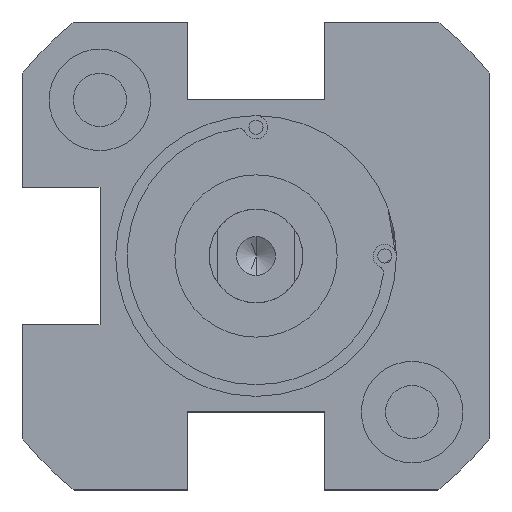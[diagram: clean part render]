
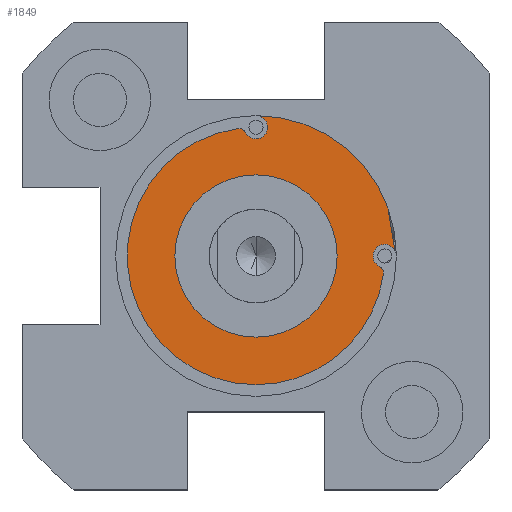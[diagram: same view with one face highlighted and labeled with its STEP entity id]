
A CAD part, front view. The second image highlights one B-rep face of the part: STEP entity #1849.
In plain terms, the highlighted planar face has unit normal (0, -1, 0) as drawn and (0, 1, 0) by its records, which use the part's own axes.
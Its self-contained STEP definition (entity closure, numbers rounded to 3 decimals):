
#7 = DIRECTION ( 'NONE',  ( 0., 0., 1. ) ) ;
#26 = CIRCLE ( 'NONE', #179, 5.2 ) ;
#53 = ORIENTED_EDGE ( 'NONE', *, *, #1013, .T. ) ;
#80 = AXIS2_PLACEMENT_3D ( 'NONE', #1652, #686, #674 ) ;
#150 = CARTESIAN_POINT ( 'NONE',  ( 0., -2., 0. ) ) ;
#178 = EDGE_CURVE ( 'NONE', #1003, #2394, #665, .T. ) ;
#179 = AXIS2_PLACEMENT_3D ( 'NONE', #969, #1355, #1545 ) ;
#257 = AXIS2_PLACEMENT_3D ( 'NONE', #486, #1034, #870 ) ;
#273 = EDGE_CURVE ( 'NONE', #882, #1968, #26, .T. ) ;
#314 = ORIENTED_EDGE ( 'NONE', *, *, #814, .T. ) ;
#318 = ORIENTED_EDGE ( 'NONE', *, *, #1264, .F. ) ;
#320 = CARTESIAN_POINT ( 'NONE',  ( 0., -2., -8.25 ) ) ;
#354 = DIRECTION ( 'NONE',  ( 0., 0., 1. ) ) ;
#358 = CIRCLE ( 'NONE', #80, 0.5 ) ;
#384 = DIRECTION ( 'NONE',  ( 0., 1., 0. ) ) ;
#446 = DIRECTION ( 'NONE',  ( 0., 0., 1. ) ) ;
#467 = CARTESIAN_POINT ( 'NONE',  ( -1.179, -2., -8.165 ) ) ;
#474 = ORIENTED_EDGE ( 'NONE', *, *, #1149, .T. ) ;
#486 = CARTESIAN_POINT ( 'NONE',  ( 0., -2., 0. ) ) ;
#487 = DIRECTION ( 'NONE',  ( 0., 0., 1. ) ) ;
#503 = CIRCLE ( 'NONE', #2262, 8.25 ) ;
#532 = DIRECTION ( 'NONE',  ( 0., 1., 0. ) ) ;
#571 = CIRCLE ( 'NONE', #1958, 0.5 ) ;
#574 = ORIENTED_EDGE ( 'NONE', *, *, #2135, .F. ) ;
#586 = ORIENTED_EDGE ( 'NONE', *, *, #2503, .T. ) ;
#587 = EDGE_CURVE ( 'NONE', #2202, #739, #503, .T. ) ;
#630 = ORIENTED_EDGE ( 'NONE', *, *, #2393, .F. ) ;
#632 = CARTESIAN_POINT ( 'NONE',  ( 0., -2., 5.2 ) ) ;
#634 = VERTEX_POINT ( 'NONE', #1720 ) ;
#650 = DIRECTION ( 'NONE',  ( 0., 1., 0. ) ) ;
#664 = DIRECTION ( 'NONE',  ( 0., 1., 0. ) ) ;
#665 = CIRCLE ( 'NONE', #2073, 0.75 ) ;
#674 = DIRECTION ( 'NONE',  ( 0., 0., 1. ) ) ;
#686 = DIRECTION ( 'NONE',  ( 0., 1., 0. ) ) ;
#687 = DIRECTION ( 'NONE',  ( 0., 1., 0. ) ) ;
#703 = ORIENTED_EDGE ( 'NONE', *, *, #587, .T. ) ;
#737 = CARTESIAN_POINT ( 'NONE',  ( 0., -2., -7.5 ) ) ;
#739 = VERTEX_POINT ( 'NONE', #1430 ) ;
#744 = CARTESIAN_POINT ( 'NONE',  ( 0., -2., 0. ) ) ;
#751 = CARTESIAN_POINT ( 'NONE',  ( -0.665, -2., -7.902 ) ) ;
#814 = EDGE_CURVE ( 'NONE', #739, #2491, #2291, .T. ) ;
#819 = DIRECTION ( 'NONE',  ( 0., 0., 1. ) ) ;
#851 = CARTESIAN_POINT ( 'NONE',  ( 0., -2., 0. ) ) ;
#870 = DIRECTION ( 'NONE',  ( 0., 0., 1. ) ) ;
#881 = CARTESIAN_POINT ( 'NONE',  ( 8.165, -2., 1.179 ) ) ;
#882 = VERTEX_POINT ( 'NONE', #1232 ) ;
#926 = DIRECTION ( 'NONE',  ( 0., 0., 1. ) ) ;
#944 = PLANE ( 'NONE',  #1279 ) ;
#956 = ORIENTED_EDGE ( 'NONE', *, *, #178, .F. ) ;
#969 = CARTESIAN_POINT ( 'NONE',  ( 0., -2., 0. ) ) ;
#974 = CARTESIAN_POINT ( 'NONE',  ( 9., -2., 0. ) ) ;
#1003 = VERTEX_POINT ( 'NONE', #737 ) ;
#1013 = EDGE_CURVE ( 'NONE', #2491, #634, #571, .T. ) ;
#1023 = CIRCLE ( 'NONE', #1713, 0.75 ) ;
#1034 = DIRECTION ( 'NONE',  ( 0., 1., 0. ) ) ;
#1076 = VERTEX_POINT ( 'NONE', #974 ) ;
#1093 = CARTESIAN_POINT ( 'NONE',  ( 0., -2., -9. ) ) ;
#1149 = EDGE_CURVE ( 'NONE', #1828, #2202, #358, .T. ) ;
#1184 = EDGE_LOOP ( 'NONE', ( #630, #1366 ) ) ;
#1189 = EDGE_LOOP ( 'NONE', ( #703, #314, #53, #574, #586, #956, #318, #474 ) ) ;
#1222 = CARTESIAN_POINT ( 'NONE',  ( 8.25, -2., 0. ) ) ;
#1232 = CARTESIAN_POINT ( 'NONE',  ( 0., -2., -5.2 ) ) ;
#1264 = EDGE_CURVE ( 'NONE', #1828, #1003, #2182, .T. ) ;
#1279 = AXIS2_PLACEMENT_3D ( 'NONE', #150, #1536, #1729 ) ;
#1345 = CARTESIAN_POINT ( 'NONE',  ( 7.67, -2., 1.108 ) ) ;
#1355 = DIRECTION ( 'NONE',  ( 0., 1., 0. ) ) ;
#1359 = CIRCLE ( 'NONE', #2009, 5.2 ) ;
#1366 = ORIENTED_EDGE ( 'NONE', *, *, #273, .F. ) ;
#1392 = DIRECTION ( 'NONE',  ( 0., 1., 0. ) ) ;
#1430 = CARTESIAN_POINT ( 'NONE',  ( 0., -2., 8.25 ) ) ;
#1510 = DIRECTION ( 'NONE',  ( 0., 0., 1. ) ) ;
#1536 = DIRECTION ( 'NONE',  ( 0., 1., 0. ) ) ;
#1545 = DIRECTION ( 'NONE',  ( 0., 0., 1. ) ) ;
#1579 = CIRCLE ( 'NONE', #2143, 9. ) ;
#1595 = AXIS2_PLACEMENT_3D ( 'NONE', #1814, #650, #446 ) ;
#1652 = CARTESIAN_POINT ( 'NONE',  ( -1.108, -2., -7.67 ) ) ;
#1713 = AXIS2_PLACEMENT_3D ( 'NONE', #1222, #1392, #819 ) ;
#1720 = CARTESIAN_POINT ( 'NONE',  ( 7.902, -2., 0.665 ) ) ;
#1729 = DIRECTION ( 'NONE',  ( 0., 0., 1. ) ) ;
#1814 = CARTESIAN_POINT ( 'NONE',  ( 0., -2., -8.25 ) ) ;
#1828 = VERTEX_POINT ( 'NONE', #751 ) ;
#1849 = ADVANCED_FACE ( 'NONE', ( #1965, #1936 ), #944, .T. ) ;
#1883 = CARTESIAN_POINT ( 'NONE',  ( 0., -2., 0. ) ) ;
#1936 = FACE_BOUND ( 'NONE', #1184, .T. ) ;
#1958 = AXIS2_PLACEMENT_3D ( 'NONE', #1345, #2101, #926 ) ;
#1965 = FACE_OUTER_BOUND ( 'NONE', #1189, .T. ) ;
#1968 = VERTEX_POINT ( 'NONE', #632 ) ;
#2009 = AXIS2_PLACEMENT_3D ( 'NONE', #851, #664, #1510 ) ;
#2073 = AXIS2_PLACEMENT_3D ( 'NONE', #320, #384, #7 ) ;
#2101 = DIRECTION ( 'NONE',  ( 0., 1., 0. ) ) ;
#2135 = EDGE_CURVE ( 'NONE', #1076, #634, #1023, .T. ) ;
#2143 = AXIS2_PLACEMENT_3D ( 'NONE', #1883, #687, #487 ) ;
#2182 = CIRCLE ( 'NONE', #1595, 0.75 ) ;
#2202 = VERTEX_POINT ( 'NONE', #467 ) ;
#2262 = AXIS2_PLACEMENT_3D ( 'NONE', #744, #532, #354 ) ;
#2291 = CIRCLE ( 'NONE', #257, 8.25 ) ;
#2393 = EDGE_CURVE ( 'NONE', #1968, #882, #1359, .T. ) ;
#2394 = VERTEX_POINT ( 'NONE', #1093 ) ;
#2491 = VERTEX_POINT ( 'NONE', #881 ) ;
#2503 = EDGE_CURVE ( 'NONE', #1076, #2394, #1579, .T. ) ;
